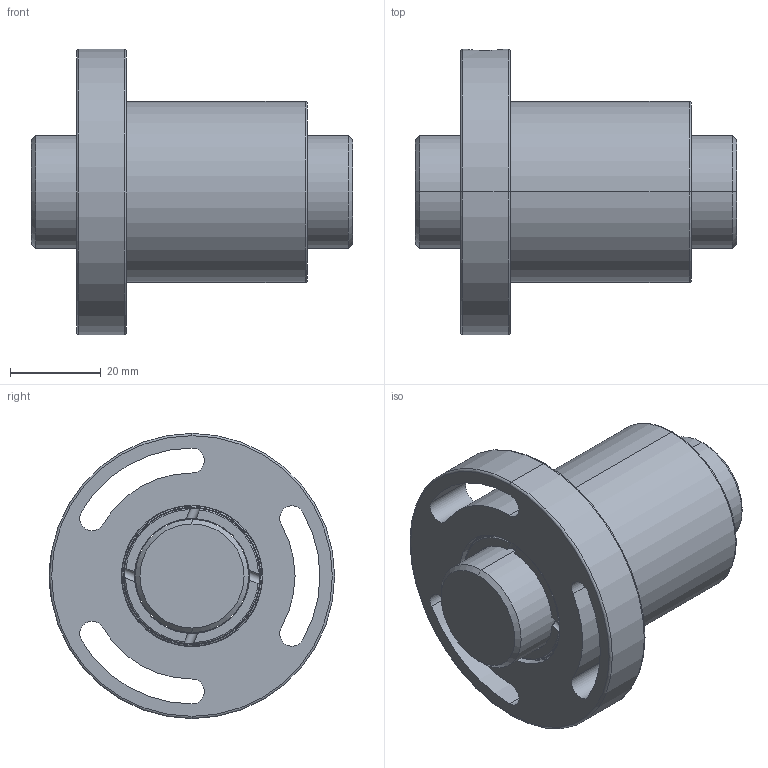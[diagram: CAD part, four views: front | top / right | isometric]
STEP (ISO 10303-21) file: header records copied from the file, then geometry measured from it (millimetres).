
FILE_DESCRIPTION (( 'STEP AP203' ), '1' );
FILE_NAME ('SFCR02505T4-C.STEP', '2020-06-18T01:50:09', ( '' ), ( '' ), 'SwSTEP 2.0', 'SolidWorks 2013', '' );
FILE_SCHEMA (( 'CONFIG_CONTROL_DESIGN' ));
Length unit declared in the file: millimetre
Products named in the file (1): SFCR02505T4-C
Bounding box: 71 x 63 x 63 mm (x, y, z)
Volume: 84996.7 mm3; surface area: 27144.7 mm2
Topology: 2 solids, 2 shells, 106 faces, 274 edges, 176 vertices
Faces by surface type: cylinder 56, torus 26, plane 20, cone 4
Entity records: 4123 total; most frequent: CARTESIAN_POINT 1401, DIRECTION 586, ORIENTED_EDGE 548, EDGE_CURVE 274, AXIS2_PLACEMENT_3D 261, VERTEX_POINT 176, CIRCLE 154, EDGE_LOOP 122
